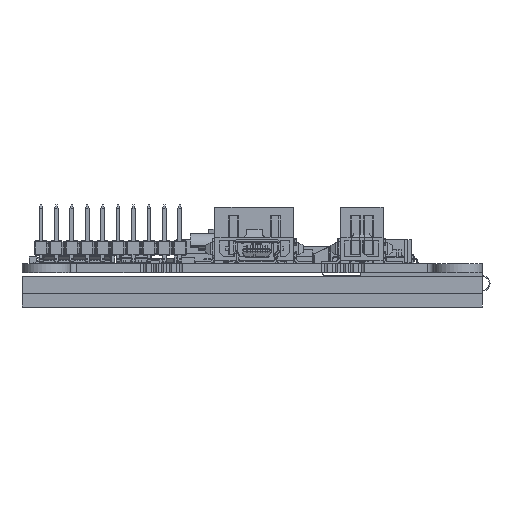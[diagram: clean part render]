
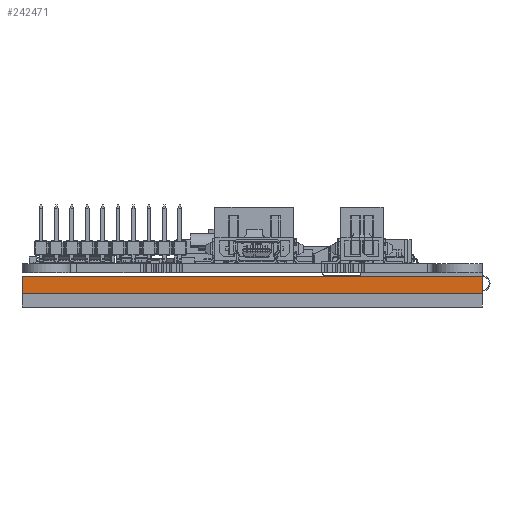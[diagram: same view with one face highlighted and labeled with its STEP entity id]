
A CAD part, left-side view. The second image highlights one B-rep face of the part: STEP entity #242471.
In plain terms, the highlighted planar face has unit normal (-1, 0, 0) as drawn and (1, 0, 0) by its records, which use the part's own axes.
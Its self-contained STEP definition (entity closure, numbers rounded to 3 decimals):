
#23820 = LINE ( 'NONE', #183162, #210206 ) ;
#30098 = FACE_OUTER_BOUND ( 'NONE', #107240, .T. ) ;
#34590 = EDGE_CURVE ( 'NONE', #57039, #286778, #306891, .T. ) ;
#57039 = VERTEX_POINT ( 'NONE', #322725 ) ;
#58951 = DIRECTION ( 'NONE',  ( 0., 1., 0. ) ) ;
#65424 = DIRECTION ( 'NONE',  ( 0., 1., 0. ) ) ;
#67039 = CARTESIAN_POINT ( 'NONE',  ( 60.35, 37.9, -1.4 ) ) ;
#73829 = ORIENTED_EDGE ( 'NONE', *, *, #139837, .F. ) ;
#94345 = LINE ( 'NONE', #292864, #195031 ) ;
#104873 = DIRECTION ( 'NONE',  ( 0., 0., 1. ) ) ;
#107240 = EDGE_LOOP ( 'NONE', ( #425226, #469187, #73829, #336921 ) ) ;
#137191 = CARTESIAN_POINT ( 'NONE',  ( 60.35, 37.9, 1.4 ) ) ;
#139837 = EDGE_CURVE ( 'NONE', #335721, #57039, #23820, .T. ) ;
#183162 = CARTESIAN_POINT ( 'NONE',  ( 60.35, -37.9, -1.4 ) ) ;
#184351 = DIRECTION ( 'NONE',  ( 0., 1., 0. ) ) ;
#186935 = PLANE ( 'NONE',  #434829 ) ;
#187889 = VERTEX_POINT ( 'NONE', #277017 ) ;
#195031 = VECTOR ( 'NONE', #65424, 1000. ) ;
#210206 = VECTOR ( 'NONE', #104873, 1000. ) ;
#242471 = ADVANCED_FACE ( 'NONE', ( #30098 ), #186935, .T. ) ;
#277017 = CARTESIAN_POINT ( 'NONE',  ( 60.35, 37.9, -1.4 ) ) ;
#286778 = VERTEX_POINT ( 'NONE', #324275 ) ;
#292864 = CARTESIAN_POINT ( 'NONE',  ( 60.35, 37.9, -1.4 ) ) ;
#306891 = LINE ( 'NONE', #137191, #501222 ) ;
#307141 = CARTESIAN_POINT ( 'NONE',  ( 60.35, 37.9, -1.4 ) ) ;
#322725 = CARTESIAN_POINT ( 'NONE',  ( 60.35, -37.9, 1.4 ) ) ;
#324275 = CARTESIAN_POINT ( 'NONE',  ( 60.35, 37.9, 1.4 ) ) ;
#335721 = VERTEX_POINT ( 'NONE', #514322 ) ;
#336921 = ORIENTED_EDGE ( 'NONE', *, *, #469737, .T. ) ;
#376237 = VECTOR ( 'NONE', #430074, 1000. ) ;
#380467 = DIRECTION ( 'NONE',  ( 1., 0., 0. ) ) ;
#425226 = ORIENTED_EDGE ( 'NONE', *, *, #463199, .T. ) ;
#430074 = DIRECTION ( 'NONE',  ( 0., 0., 1. ) ) ;
#434829 = AXIS2_PLACEMENT_3D ( 'NONE', #307141, #380467, #184351 ) ;
#463199 = EDGE_CURVE ( 'NONE', #187889, #286778, #503172, .T. ) ;
#469187 = ORIENTED_EDGE ( 'NONE', *, *, #34590, .F. ) ;
#469737 = EDGE_CURVE ( 'NONE', #335721, #187889, #94345, .T. ) ;
#501222 = VECTOR ( 'NONE', #58951, 1000. ) ;
#503172 = LINE ( 'NONE', #67039, #376237 ) ;
#514322 = CARTESIAN_POINT ( 'NONE',  ( 60.35, -37.9, -1.4 ) ) ;
